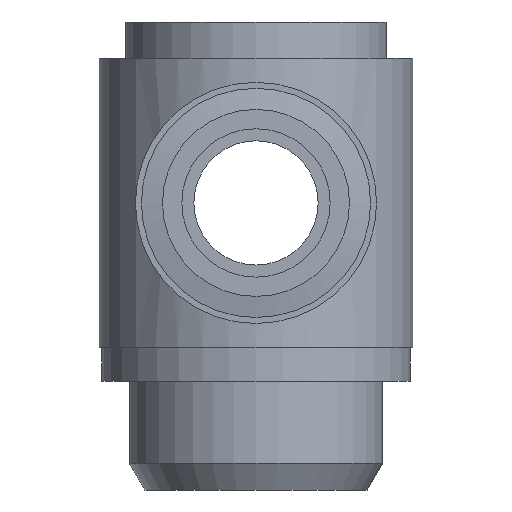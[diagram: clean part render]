
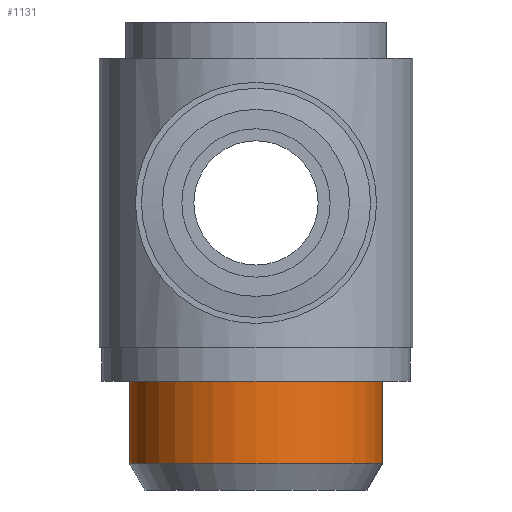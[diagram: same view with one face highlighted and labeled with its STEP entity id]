
A CAD part, front view. The second image highlights one B-rep face of the part: STEP entity #1131.
In plain terms, the highlighted cylindrical face has radius 10.5 mm (diameter 21 mm), a full revolution.
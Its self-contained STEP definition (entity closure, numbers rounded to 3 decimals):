
#1091=CARTESIAN_POINT('',(0.,-10.5,-21.6));
#1092=VERTEX_POINT('',#1091);
#1093=CARTESIAN_POINT('',(0.0,0.0,-21.6));
#1094=DIRECTION('',(0.0,0.,-1.0));
#1095=DIRECTION('',(0.0,1.0,0.));
#1096=AXIS2_PLACEMENT_3D('',#1093,#1094,#1095);
#1097=CIRCLE('',#1096,10.5);
#1098=EDGE_CURVE('',#1092,#1092,#1097,.T.);
#1112=CARTESIAN_POINT('',(0.0,0.0,-19.3));
#1113=DIRECTION('',(0.0,0.0,1.0));
#1114=DIRECTION('',(0.0,-1.0,0.));
#1115=AXIS2_PLACEMENT_3D('',#1112,#1113,#1114);
#1116=CYLINDRICAL_SURFACE('',#1115,10.5);
#1117=CARTESIAN_POINT('',(0.0,-10.5,-14.8));
#1118=VERTEX_POINT('',#1117);
#1119=CARTESIAN_POINT('',(0.0,0.0,-14.8));
#1120=DIRECTION('',(0.0,0.,1.0));
#1121=DIRECTION('',(0.0,-1.0,0.));
#1122=AXIS2_PLACEMENT_3D('',#1119,#1120,#1121);
#1123=CIRCLE('',#1122,10.5);
#1124=EDGE_CURVE('',#1118,#1118,#1123,.T.);
#1125=ORIENTED_EDGE('',*,*,#1124,.F.);
#1126=EDGE_LOOP('',(#1125));
#1127=FACE_OUTER_BOUND('',#1126,.T.);
#1128=ORIENTED_EDGE('',*,*,#1098,.F.);
#1129=EDGE_LOOP('',(#1128));
#1130=FACE_BOUND('',#1129,.T.);
#1131=ADVANCED_FACE('',(#1127,#1130),#1116,.T.);
